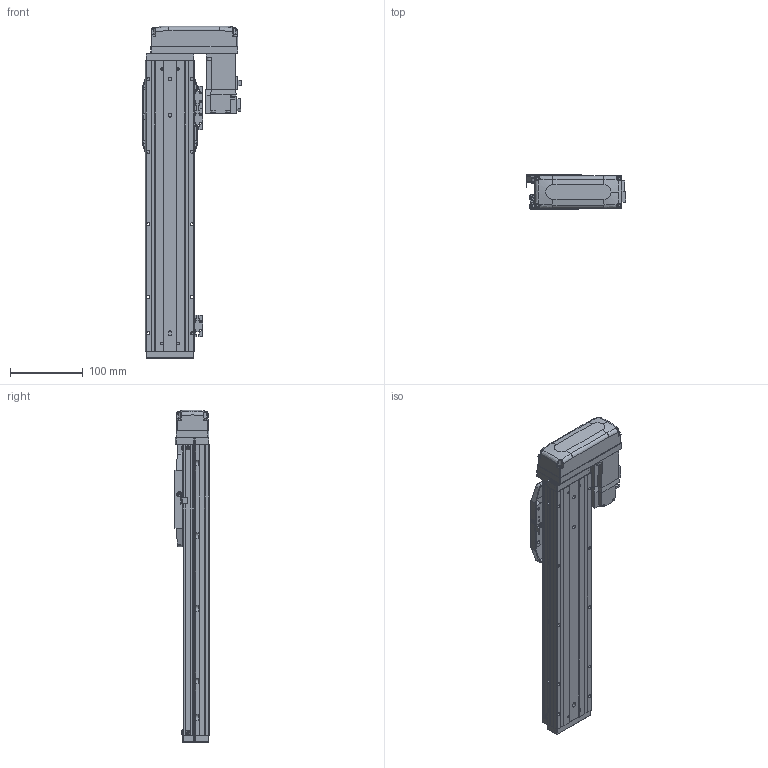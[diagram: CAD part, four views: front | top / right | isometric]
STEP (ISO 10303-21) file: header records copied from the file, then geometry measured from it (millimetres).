
FILE_DESCRIPTION (( 'STEP AP203' ), '1' );
FILE_NAME ('CTHA60-250-BL-M10-C4L.step', '2022-03-19T06:13:38', ( '微软用户' ), ( '微软中国' ), 'SwSTEP 2.0', 'SolidWorks 2020', '' );
FILE_SCHEMA (( 'CONFIG_CONTROL_DESIGN' ));
Length unit declared in the file: millimetre
Products named in the file (18): CTHA60-004; GBT77-2000 M3×3; CTHA60-006-1; CTHA60-005; GBT 70.1-M3℅6; CTHA60-033; GB¨uT 70.2-M3¡Á6_M3¡Á6; GBT 70.3-M3℅6; CTHA60-250-BL-M10-C4L; EE_SX911P_R; CTHA60-016; CTHA60-017; HG-KR13（三菱）; CTHA60-021; CTHA60-002; CTHA60-001_400; GBT 70.1-M4×16; CTHA60-031
Assembly tree (54 placements, depth 2):
  CTHA60-250-BL-M10-C4L
    CTHA60-001_400
    CTHA60-004
    CTHA60-005
    GB¨uT 70.2-M3¡Á6_M3¡Á6  x10
    EE_SX911P_R  x3
    CTHA60-017  x3
    CTHA60-021  x2
    GBT 70.1-M4×16  x10
    GBT77-2000 M3×3  x6
    GBT 70.1-M3℅6  x6
    GBT 70.3-M3℅6  x4
    CTHA60-016  x2
    HG-KR13（三菱）
    CTHA60-002
    CTHA60-031
    CTHA60-006-1
    CTHA60-033
Bounding box: 137.1 x 48 x 457 mm (x, y, z)
Volume: 906261.1 mm3; surface area: 287789 mm2
Topology: 56 solids, 56 shells, 2474 faces, 5925 edges, 3649 vertices
Faces by surface type: plane 1425, cylinder 565, cone 336, torus 92, bspline 32, sphere 24
Entity records: 43719 total; most frequent: CARTESIAN_POINT 8474, DIRECTION 6726, ORIENTED_EDGE 6658, EDGE_CURVE 3329, LINE 2358, VECTOR 2358, AXIS2_PLACEMENT_3D 2184, VERTEX_POINT 2108
